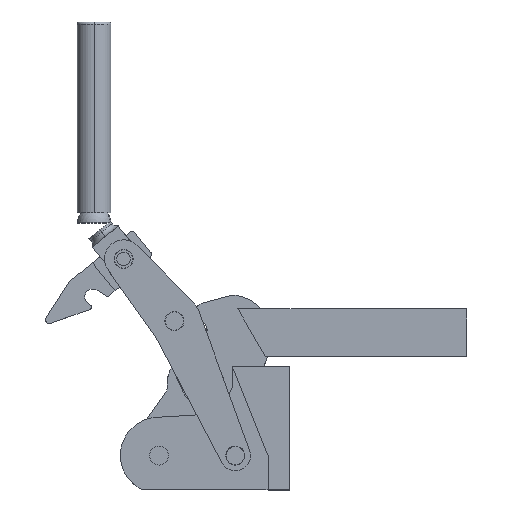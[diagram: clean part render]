
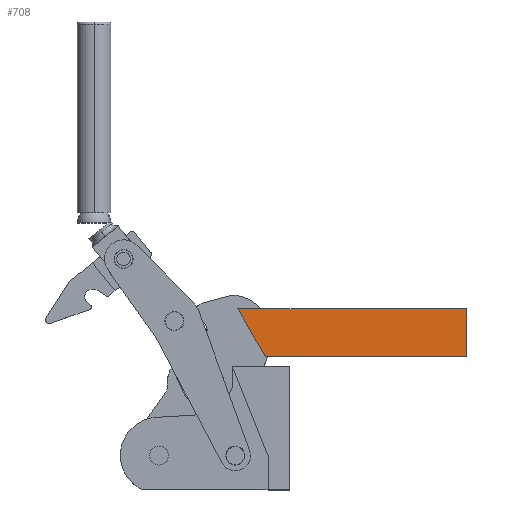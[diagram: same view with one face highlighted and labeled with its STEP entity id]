
A CAD part, top view. The second image highlights one B-rep face of the part: STEP entity #708.
In plain terms, the highlighted planar face has unit normal (0, 0, 1).
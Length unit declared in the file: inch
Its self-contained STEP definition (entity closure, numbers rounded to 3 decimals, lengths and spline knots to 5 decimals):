
#708 = ADVANCED_FACE( '', ( #977 ), #978, .T. );
#977 = FACE_OUTER_BOUND( '', #1542, .T. );
#978 = PLANE( '', #1543 );
#1542 = EDGE_LOOP( '', ( #2367, #2368, #2369, #2370 ) );
#1543 = AXIS2_PLACEMENT_3D( '', #2371, #2372, #2373 );
#2367 = ORIENTED_EDGE( '', *, *, #4445, .F. );
#2368 = ORIENTED_EDGE( '', *, *, #4435, .F. );
#2369 = ORIENTED_EDGE( '', *, *, #4443, .F. );
#2370 = ORIENTED_EDGE( '', *, *, #4449, .F. );
#2371 = CARTESIAN_POINT( '', ( 1.78057, 4.15728, 0.56451 ) );
#2372 = DIRECTION( '', ( 0., 0., 1. ) );
#2373 = DIRECTION( '', ( 1., 0., 0. ) );
#4435 = EDGE_CURVE( '', #5132, #5134, #5135, .T. );
#4443 = EDGE_CURVE( '', #5145, #5132, #5147, .T. );
#4445 = EDGE_CURVE( '', #5134, #5149, #5150, .T. );
#4449 = EDGE_CURVE( '', #5149, #5145, #5155, .T. );
#5132 = VERTEX_POINT( '', #6292 );
#5134 = VERTEX_POINT( '', #6295 );
#5135 = LINE( '', #6296, #6297 );
#5145 = VERTEX_POINT( '', #6313 );
#5147 = LINE( '', #6316, #6317 );
#5149 = VERTEX_POINT( '', #6320 );
#5150 = LINE( '', #6321, #6322 );
#5155 = LINE( '', #6330, #6331 );
#6292 = CARTESIAN_POINT( '', ( -0.62982, 3.5, 0.56451 ) );
#6295 = CARTESIAN_POINT( '', ( -1.3515, 4.75, 0.56451 ) );
#6296 = CARTESIAN_POINT( '', ( -0.62982, 3.5, 0.56451 ) );
#6297 = VECTOR( '', #8056, 1. );
#6313 = CARTESIAN_POINT( '', ( 4.6485, 3.5, 0.56451 ) );
#6316 = CARTESIAN_POINT( '', ( -0.62982, 3.5, 0.56451 ) );
#6317 = VECTOR( '', #8064, 1. );
#6320 = CARTESIAN_POINT( '', ( 4.6485, 4.75, 0.56451 ) );
#6321 = CARTESIAN_POINT( '', ( -0.70487, 4.75, 0.56451 ) );
#6322 = VECTOR( '', #8066, 1. );
#6330 = CARTESIAN_POINT( '', ( 4.6485, 3.5, 0.56451 ) );
#6331 = VECTOR( '', #8070, 1. );
#8056 = DIRECTION( '', ( -0.5, 0.866, 0. ) );
#8064 = DIRECTION( '', ( -1., 0., 0. ) );
#8066 = DIRECTION( '', ( 1., 0., 0. ) );
#8070 = DIRECTION( '', ( 0., -1., 0. ) );
